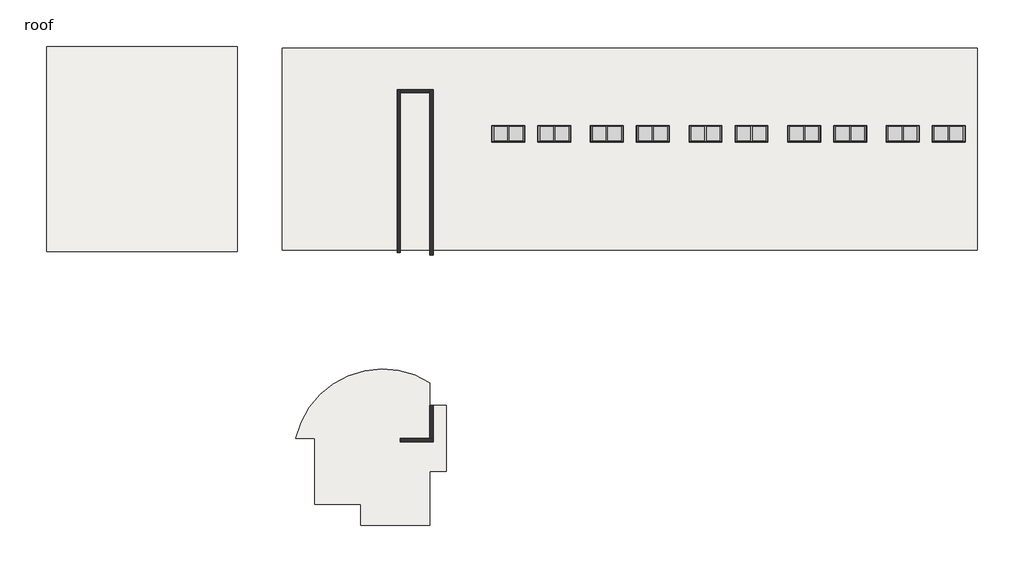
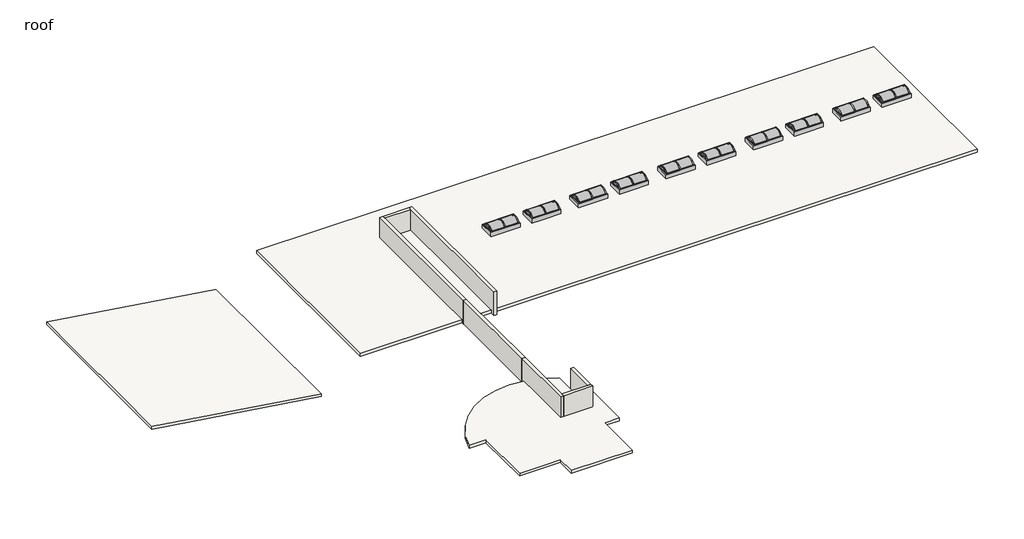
# One storey: 10 proxies, 7 walls, 3 roofs.
"""IFC4 building model written with IfcOpenShell, lengths in millimetres."""

from ifc_helpers import new_model, si_unit, point, frame, frame_2d, origin, place, context, project, spatial, polyline, circle_curve, trimmed, segment, composite_curve, outline, extrude, faceted_brep, transform, mapped, element, save
from ifc_brep_helpers import plane_surface, cylinder_surface, revolved_surface, advanced_brep
from components import sky_composite_p3_r2_sky_composite_p3_r2_fa0c1734

model = new_model("IFC4")

# Units and contexts
model_context = context("Model", 3, world=origin())
ifc_project = project(units=[si_unit("LENGTHUNIT", "METRE", prefix="MILLI")], contexts=[model_context])

# Site, building, storey
site = spatial("IfcSite", under=ifc_project)
building = spatial("IfcBuilding", under=site)
storey = spatial("IfcBuildingStorey", under=building, Name="roof", Elevation=19659.6)

# Proxies
placement = place(None, origin())
sky_composite_p3_r2_sky_composite_p3_r2_shape = sky_composite_p3_r2_sky_composite_p3_r2_fa0c1734(model_context)
element("IfcBuildingElementProxy", 1, Name="sky-composite-p3-r2 : sky-composite-p3-r2", ObjectType="sky-composite-p3-r2 : sky-composite-p3-r2", at=placement, inside=storey, context=model_context, shape_type="MappedRepresentation", body=[
    mapped(sky_composite_p3_r2_sky_composite_p3_r2_shape, transform((-94596.890902, 35883.9821029, 16002.0), x_axis=(0.0, 1.0, 0.0), y_axis=(-1.0, 0.0, 0.0), z_axis=(0.0, 0.0, 1.0))),
])
element("IfcBuildingElementProxy", 2, Name="sky-composite-p3-r2 : sky-composite-p3-r2", ObjectType="sky-composite-p3-r2 : sky-composite-p3-r2", at=placement, inside=storey, context=model_context, shape_type="MappedRepresentation", body=[
    mapped(sky_composite_p3_r2_sky_composite_p3_r2_shape, transform((-90329.690902, 35887.1571029, 16002.0), x_axis=(0.0, 1.0, 0.0), y_axis=(-1.0, 0.0, 0.0), z_axis=(0.0, 0.0, 1.0))),
])
element("IfcBuildingElementProxy", 3, Name="sky-composite-p3-r2 : sky-composite-p3-r2", ObjectType="sky-composite-p3-r2 : sky-composite-p3-r2", at=placement, inside=storey, context=model_context, shape_type="MappedRepresentation", body=[
    mapped(sky_composite_p3_r2_sky_composite_p3_r2_shape, transform((-85452.890902, 35883.9821029, 16002.0), x_axis=(0.0, 1.0, 0.0), y_axis=(-1.0, 0.0, 0.0), z_axis=(0.0, 0.0, 1.0))),
])
element("IfcBuildingElementProxy", 4, Name="sky-composite-p3-r2 : sky-composite-p3-r2", ObjectType="sky-composite-p3-r2 : sky-composite-p3-r2", at=placement, inside=storey, context=model_context, shape_type="MappedRepresentation", body=[
    mapped(sky_composite_p3_r2_sky_composite_p3_r2_shape, transform((-81185.690902, 35887.1571029, 16002.0), x_axis=(0.0, 1.0, 0.0), y_axis=(-1.0, 0.0, 0.0), z_axis=(0.0, 0.0, 1.0))),
])
element("IfcBuildingElementProxy", 5, Name="sky-composite-p3-r2 : sky-composite-p3-r2", ObjectType="sky-composite-p3-r2 : sky-composite-p3-r2", at=placement, inside=storey, context=model_context, shape_type="MappedRepresentation", body=[
    mapped(sky_composite_p3_r2_sky_composite_p3_r2_shape, transform((-76308.890902, 35883.9821029, 16002.0), x_axis=(0.0, 1.0, 0.0), y_axis=(-1.0, 0.0, 0.0), z_axis=(0.0, 0.0, 1.0))),
])
element("IfcBuildingElementProxy", 6, Name="sky-composite-p3-r2 : sky-composite-p3-r2", ObjectType="sky-composite-p3-r2 : sky-composite-p3-r2", at=placement, inside=storey, context=model_context, shape_type="MappedRepresentation", body=[
    mapped(sky_composite_p3_r2_sky_composite_p3_r2_shape, transform((-72041.690902, 35887.1571029, 16002.0), x_axis=(0.0, 1.0, 0.0), y_axis=(-1.0, 0.0, 0.0), z_axis=(0.0, 0.0, 1.0))),
])
element("IfcBuildingElementProxy", 7, Name="sky-composite-p3-r2 : sky-composite-p3-r2", ObjectType="sky-composite-p3-r2 : sky-composite-p3-r2", at=placement, inside=storey, context=model_context, shape_type="MappedRepresentation", body=[
    mapped(sky_composite_p3_r2_sky_composite_p3_r2_shape, transform((-67164.890902, 35883.9821029, 16002.0), x_axis=(0.0, 1.0, 0.0), y_axis=(-1.0, 0.0, 0.0), z_axis=(0.0, 0.0, 1.0))),
])
element("IfcBuildingElementProxy", 8, Name="sky-composite-p3-r2 : sky-composite-p3-r2", ObjectType="sky-composite-p3-r2 : sky-composite-p3-r2", at=placement, inside=storey, context=model_context, shape_type="MappedRepresentation", body=[
    mapped(sky_composite_p3_r2_sky_composite_p3_r2_shape, transform((-62897.690902, 35887.1571029, 16002.0), x_axis=(0.0, 1.0, 0.0), y_axis=(-1.0, 0.0, 0.0), z_axis=(0.0, 0.0, 1.0))),
])
element("IfcBuildingElementProxy", 9, Name="sky-composite-p3-r2 : sky-composite-p3-r2", ObjectType="sky-composite-p3-r2 : sky-composite-p3-r2", at=placement, inside=storey, context=model_context, shape_type="MappedRepresentation", body=[
    mapped(sky_composite_p3_r2_sky_composite_p3_r2_shape, transform((-58020.890902, 35883.9821029, 16002.0), x_axis=(0.0, 1.0, 0.0), y_axis=(-1.0, 0.0, 0.0), z_axis=(0.0, 0.0, 1.0))),
])
element("IfcBuildingElementProxy", 10, Name="sky-composite-p3-r2 : sky-composite-p3-r2", ObjectType="sky-composite-p3-r2 : sky-composite-p3-r2", at=placement, inside=storey, context=model_context, shape_type="MappedRepresentation", body=[
    mapped(sky_composite_p3_r2_sky_composite_p3_r2_shape, transform((-53753.690902, 35887.1571029, 16002.0), x_axis=(0.0, 1.0, 0.0), y_axis=(-1.0, 0.0, 0.0), z_axis=(0.0, 0.0, 1.0))),
])

# Roofs
element("IfcRoof", 11, ObjectType="Generic - 12\"", at=placement, inside=storey, context=model_context, shape_type="SweptSolid", body=[
    extrude(outline(composite_curve([segment(polyline([(-100340.8074925, 10680.8321029), (-100340.8074925, 4552.4219438), (-101864.8074925, 4552.4219438), (-101864.8074925, -438.0178971), (-108259.2574925, -438.0178971), (-108259.2574925, 1504.4219438), (-112526.4574925, 1504.4219438), (-112526.4574925, 7600.4219438), (-114287.3460236, 7600.4219438)]), True, "CONTINUOUS"), segment(trimmed(circle_curve(frame_2d((-106274.6952809, 5852.7181701)), 8201.0389834), [point((-114287.3460236, 7600.4219438))], [point((-101864.8074925, 12767.1906808))], False, "CARTESIAN"), True, "CONTINUOUS"), segment(polyline([(-101864.8074925, 12767.1906808), (-101864.8074925, 10680.8321029), (-100340.8074925, 10680.8321029)]), True, "CONTINUOUS")], self_intersect=False)), frame((0.0, 0.0, 19659.6), z_axis=(0.0, 0.0, 1.0), x_axis=(1.0, 0.0, 0.0)), (0.0, 0.0, 1.0), 304.8),
])
element("IfcRoof", 12, ObjectType="Generic - 12\"", at=placement, inside=storey, context=model_context, shape_type="SweptSolid", body=[
    extrude(outline(polyline([(17072.0546055, -119739.715902), (19662.8546055, -137421.290902), (19354.8, -137421.290902), (16764.0, -119739.715902), (17072.0546055, -119739.715902)])), frame((0.0, 24933.4071029, 0.0), z_axis=(0.0, 1.0, 0.0), x_axis=(0.0, 0.0, 1.0)), (0.0, 0.0, 1.0), 19050.0),
])
element("IfcRoof", 13, ObjectType="Generic - 12\"", at=placement, inside=storey, context=model_context, shape_type="SweptSolid", body=[
    extrude(outline(polyline([(-115553.8578209, 43832.5946029), (-51085.103402, 43832.5946029), (-51085.103402, 25084.2196029), (-115553.8578209, 25084.2196029), (-115553.8578209, 43832.5946029)]), holes=[polyline([(-95968.490902, 36493.5821029), (-95968.490902, 35274.3821029), (-93225.290902, 35274.3821029), (-93225.290902, 36493.5821029), (-95968.490902, 36493.5821029)]), polyline([(-91701.290902, 36496.7571029), (-91701.290902, 35277.5571029), (-88958.090902, 35277.5571029), (-88958.090902, 36496.7571029), (-91701.290902, 36496.7571029)]), polyline([(-86824.490902, 36493.5821029), (-86824.490902, 35274.3821029), (-84081.290902, 35274.3821029), (-84081.290902, 36493.5821029), (-86824.490902, 36493.5821029)]), polyline([(-82557.290902, 36496.7571029), (-82557.290902, 35277.5571029), (-79814.090902, 35277.5571029), (-79814.090902, 36496.7571029), (-82557.290902, 36496.7571029)]), polyline([(-77680.490902, 36493.5821029), (-77680.490902, 35274.3821029), (-74937.290902, 35274.3821029), (-74937.290902, 36493.5821029), (-77680.490902, 36493.5821029)]), polyline([(-73413.290902, 36496.7571029), (-73413.290902, 35277.5571029), (-70670.090902, 35277.5571029), (-70670.090902, 36496.7571029), (-73413.290902, 36496.7571029)]), polyline([(-68536.490902, 36493.5821029), (-68536.490902, 35274.3821029), (-65793.290902, 35274.3821029), (-65793.290902, 36493.5821029), (-68536.490902, 36493.5821029)]), polyline([(-64269.290902, 36496.7571029), (-64269.290902, 35277.5571029), (-61526.090902, 35277.5571029), (-61526.090902, 36496.7571029), (-64269.290902, 36496.7571029)]), polyline([(-59392.490902, 36493.5821029), (-59392.490902, 35274.3821029), (-56649.290902, 35274.3821029), (-56649.290902, 36493.5821029), (-59392.490902, 36493.5821029)]), polyline([(-55125.290902, 36496.7571029), (-55125.290902, 35277.5571029), (-52382.090902, 35277.5571029), (-52382.090902, 36496.7571029), (-55125.290902, 36496.7571029)])]), frame((0.0, 0.0, 19659.6), z_axis=(0.0, 0.0, 1.0), x_axis=(1.0, 0.0, 0.0)), (0.0, 0.0, 1.0), 304.8),
])

# Walls
element("IfcWall", 14, ObjectType="a_Mtl panel on Mtl stud", at=placement, inside=storey, context=model_context, shape_type="AdvancedBrep", body=[
    advanced_brep(
    [(-104912.8074925, 14306.0493373, 19659.6), (-104912.8074925, 7289.2719438, 19659.6), (-104912.8074925, 7289.2719438, 22250.4), (-104912.8074925, 14306.0493373, 22250.4), (-104912.8074925, 14306.0493373, 20574.0), (-104601.6574925, 14251.0186307, 19659.6), (-104601.6574925, 14251.0186307, 22250.4), (-104601.6574925, 7600.4219438, 22250.4), (-104601.6574925, 7289.2719438, 22250.4), (-104601.6574925, 7289.2719438, 19659.6), (-104601.6574925, 7600.4219438, 19659.6)],
    [
        (0, 1),
        (1, 2),
        (2, 3),
        (3, 4),
        (4, 0),
        (5, 6),
        (6, 7),
        (7, 8),
        (8, 9),
        (9, 10),
        (10, 5),
        (0, 5, circle_curve(frame((-106255.490902, 5807.2071029, 19659.6), z_axis=(0.0, 0.0, -1.0), x_axis=(1.0, 0.0, 0.0)), 8604.25)),
        (9, 1),
        (2, 8),
        (6, 3, circle_curve(frame((-106255.490902, 5807.2071029, 22250.4), z_axis=(0.0, 0.0, 1.0), x_axis=(1.0, 0.0, 0.0)), 8604.25)),
    ],
    [
        plane_surface(frame((-104912.8074925, 14054.2153931, 19659.6), z_axis=(-1.0, 0.0, 0.0), x_axis=(0.0, -1.0, 0.0))),
        plane_surface(frame((-104601.6574925, 14054.2153931, 19659.6), z_axis=(1.0, 0.0, 0.0), x_axis=(0.0, 1.0, 0.0))),
        plane_surface(frame((-104912.8074925, 14054.2153931, 19659.6), z_axis=(0.0, 0.0, -1.0), x_axis=(1.0, 0.0, 0.0))),
        plane_surface(frame((-104912.8074925, 7444.8469438, 22250.4), z_axis=(0.0, 0.0, 1.0), x_axis=(1.0, 0.0, 0.0))),
        plane_surface(frame((-104757.2324925, 7289.2719438, 19659.6), z_axis=(0.0, -1.0, 0.0), x_axis=(1.0, 0.0, 0.0))),
        cylinder_surface(frame((-106255.490902, 5807.2071029, -304.8), z_axis=(0.0, 0.0, 1.0), x_axis=(1.0, 0.0, 0.0)), 8604.25),
    ],
    [
        (0, [[1, 2, 3, 4, 5]]),
        (1, [[6, 7, 8, 9, 10, 11]]),
        (2, [[-1, 12, -11, -10, 13]]),
        (3, [[-3, 14, -8, -7, 15]]),
        (4, [[-2, -13, -9, -14]]),
        (5, [[-5, -4, -15, -6, -12]]),
    ],
),
])
element("IfcWall", 15, ObjectType="a_Mtl panel on Mtl stud", at=placement, inside=storey, context=model_context, shape_type="Brep", body=[
    faceted_brep([(-104601.6574925, 7289.2719438, 19659.6), (-101553.6574925, 7289.2719438, 19659.6), (-101553.6574925, 7289.2719438, 22250.4), (-104601.6574925, 7289.2719438, 22250.4), (-104601.6574925, 7600.4219438, 19659.6), (-104601.6574925, 7600.4219438, 22250.4), (-101864.8074925, 7600.4219438, 22250.4), (-101553.6574925, 7600.4219438, 22250.4), (-101553.6574925, 7600.4219438, 19659.6), (-101864.8074925, 7600.4219438, 19659.6)], [[[0, 1, 2, 3]], [[4, 5, 6, 7, 8, 9]], [[1, 0, 4, 9, 8]], [[3, 2, 7, 6, 5]], [[2, 1, 8, 7]], [[0, 3, 5, 4]]]),
])
element("IfcWall", 16, ObjectType="a_Mtl panel on Mtl stud", at=placement, inside=storey, context=model_context, shape_type="SweptSolid", body=[
    extrude(outline(polyline([(-101553.6574925, 10680.8321029), (-101553.6574925, 7600.4219438), (-101864.8074925, 7600.4219438), (-101864.8074925, 10680.8321029), (-101553.6574925, 10680.8321029)])), frame((0.0, 0.0, 19659.6), z_axis=(0.0, 0.0, 1.0), x_axis=(1.0, 0.0, 0.0)), (0.0, 0.0, 1.0), 2590.8),
])
element("IfcWall", 17, ObjectType="a_Mtl panel on Mtl stud", at=placement, inside=storey, context=model_context, shape_type="Brep", body=[
    faceted_brep([(-104601.6574925, 24857.2071029, 19659.6), (-104601.6574925, 25084.2196029, 19659.6), (-104601.6574925, 39674.9321029, 19659.6), (-104601.6574925, 39986.0821029, 19659.6), (-104601.6574925, 39986.0821029, 22250.4), (-104601.6574925, 39674.9321029, 22250.4), (-104601.6574925, 24857.2071029, 22250.4), (-104912.8074925, 24857.2071029, 19659.6), (-104912.8074925, 24857.2071029, 22250.4), (-104912.8074925, 39986.0821029, 22250.4), (-104912.8074925, 39986.0821029, 19659.6), (-104912.8074925, 25084.2196029, 19659.6)], [[[0, 1, 2, 3, 4, 5, 6]], [[7, 8, 9, 10, 11]], [[3, 2, 1, 0, 7, 11, 10]], [[6, 5, 4, 9, 8]], [[0, 6, 8, 7]], [[4, 3, 10, 9]]]),
])
element("IfcWall", 18, ObjectType="a_Mtl panel on Mtl stud", at=placement, inside=storey, context=model_context, shape_type="Brep", body=[
    faceted_brep([(-101553.6574925, 24630.1946029, 19659.6), (-101553.6574925, 39986.0821029, 19659.6), (-101553.6574925, 39986.0821029, 22250.4), (-101553.6574925, 24630.1946029, 22250.4), (-101864.8074925, 24630.1946029, 19659.6), (-101864.8074925, 24630.1946029, 22250.4), (-101864.8074925, 39674.9321029, 22250.4), (-101864.8074925, 39986.0821029, 22250.4), (-101864.8074925, 39986.0821029, 19659.6), (-101864.8074925, 39674.9321029, 19659.6), (-101677.140902, 24630.1946029, 19659.6)], [[[0, 1, 2, 3]], [[4, 5, 6, 7, 8, 9]], [[1, 0, 10, 4, 9, 8]], [[3, 2, 7, 6, 5]], [[2, 1, 8, 7]], [[0, 3, 5, 4, 10]]]),
])
element("IfcWall", 19, ObjectType="a_Mtl panel on Mtl stud", at=placement, inside=storey, context=model_context, shape_type="SweptSolid", body=[
    extrude(outline(polyline([(-104601.6574925, 39986.0821029), (-101864.8074925, 39986.0821029), (-101864.8074925, 39674.9321029), (-104601.6574925, 39674.9321029), (-104601.6574925, 39986.0821029)])), frame((0.0, 0.0, 19659.6), z_axis=(0.0, 0.0, 1.0), x_axis=(1.0, 0.0, 0.0)), (0.0, 0.0, 1.0), 2590.8),
])
element("IfcWall", 20, ObjectType="a_Mtl panel on Mtl stud", at=placement, inside=storey, context=model_context, shape_type="AdvancedBrep", body=[
    advanced_brep(
    [(-104601.6574925, 14251.0186307, 19659.6), (-104601.6574925, 14384.4153931, 19659.6), (-104601.6574925, 24552.4071029, 19659.6), (-104601.6574925, 24857.2071029, 19659.6), (-104601.6574925, 24857.2071029, 22250.4), (-104601.6574925, 14251.0186307, 22250.4), (-104912.8074925, 14306.0493373, 19659.6), (-104912.8074925, 14306.0493373, 22250.4), (-104912.8074925, 24857.2071029, 22250.4), (-104912.8074925, 24857.2071029, 19659.6), (-104912.8074925, 24552.4071029, 19659.6), (-104912.8074925, 14384.4153931, 19659.6)],
    [
        (0, 1),
        (1, 2),
        (2, 3),
        (3, 4),
        (4, 5),
        (5, 0),
        (6, 7),
        (7, 8),
        (8, 9),
        (9, 10),
        (10, 11),
        (11, 6),
        (0, 6, circle_curve(frame((-106255.490902, 5807.2071029, 19659.6), z_axis=(0.0, 0.0, 1.0), x_axis=(1.0, 0.0, 0.0)), 8604.25)),
        (9, 3),
        (8, 4),
        (7, 5, circle_curve(frame((-106255.490902, 5807.2071029, 22250.4), z_axis=(0.0, 0.0, -1.0), x_axis=(1.0, 0.0, 0.0)), 8604.25)),
    ],
    [
        plane_surface(frame((-104601.6574925, 14054.2153931, 19659.6), z_axis=(1.0, 0.0, 0.0), x_axis=(0.0, 1.0, 0.0))),
        plane_surface(frame((-104912.8074925, 14054.2153931, 19659.6), z_axis=(-1.0, 0.0, 0.0), x_axis=(0.0, -1.0, 0.0))),
        plane_surface(frame((-104601.6574925, 14054.2153931, 19659.6), z_axis=(0.0, 0.0, -1.0), x_axis=(-1.0, 0.0, 0.0))),
        plane_surface(frame((-104601.6574925, 24857.2071029, 19659.6), z_axis=(0.0, 1.0, 0.0), x_axis=(-1.0, 0.0, 0.0))),
        plane_surface(frame((-104601.6574925, 24857.2071029, 22250.4), z_axis=(0.0, 0.0, 1.0), x_axis=(-1.0, 0.0, 0.0))),
        revolved_surface(polyline([(-97651.240902, 5807.2071029, 22250.4), (-97651.240902, 5807.2071029, 19659.6)]), (-106255.490902, 5807.2071029, -304.8), (0.0, 0.0, 1.0)),
    ],
    [
        (0, [[1, 2, 3, 4, 5, 6]]),
        (1, [[7, 8, 9, 10, 11, 12]]),
        (2, [[-3, -2, -1, 13, -12, -11, -10, 14]]),
        (3, [[-4, -14, -9, 15]]),
        (4, [[-5, -15, -8, 16]]),
        (5, [[-6, -16, -7, -13]]),
    ],
),
])

save(model, "model.ifc")
